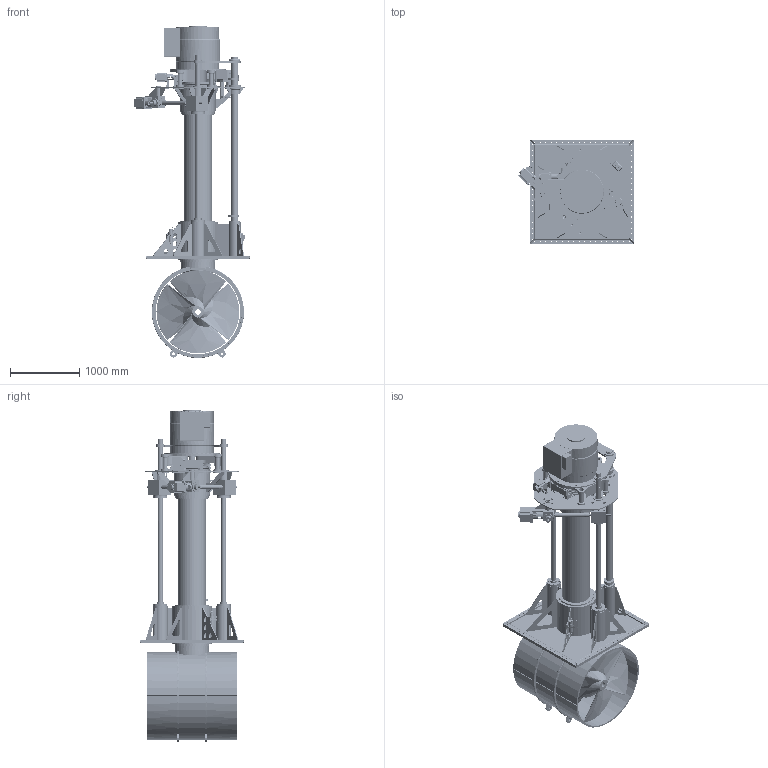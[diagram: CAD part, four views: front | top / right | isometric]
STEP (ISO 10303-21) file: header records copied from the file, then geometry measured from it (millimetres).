
FILE_DESCRIPTION(/* description */ (''),/* implementation_level */ '2;1');
FILE_NAME(/* name */ 'Q:\THRUSTERS\THRUSTER SALES & SUPPORT DOCS\THRUSTER Sales\E-V-R\E-1200-V-R\E-1200-VR-RETRACTED.stp',/* time_stamp */ '2021-02-03T10:03:15+00:00',/* author */ ('Barney.Webborn'),/* organization */ (''),/* preprocessor_version */ 'ST-DEVELOPER v17.2',/* originating_system */ 'Autodesk Inventor 2019',/* authorisation */ '');
FILE_SCHEMA (('AUTOMOTIVE_DESIGN { 1 0 10303 214 3 1 1 }'));
Products named in the file (1): E-1200-VR_Shrinkwrap_1
Bounding box: 1670.44 x 1500 x 4786.69 mm (x, y, z)
Volume: 841208552.8 mm3; surface area: 48915680.1 mm2
Topology: 11 solids, 11 shells, 5884 faces, 15832 edges, 10095 vertices
Faces by surface type: plane 2480, cylinder 2049, cone 640, torus 345, sphere 199, bspline 171
Full cylindrical faces by diameter (mm): 1.5 x1, 3 x6, 4.4 x4, 4.95 x8, 5.5 x12, 6.9 x1, 7 x26, 7.2 x2, 7.275 x1, 8 x5, 8.5 x16, 9 x5, 9.2 x1, 9.525 x1, 10 x1, 13 x8, 13.157 x1, 14 x5, 15.3 x2, 17 x86, 17.5 x3, 18 x1, 18.376 x2, 18.5 x2, 19.05 x1, 20 x1, 20.5 x8, 21 x3, 23.75 x2, 24 x9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
Entity records: 207002 total; most frequent: CARTESIAN_POINT 52377, DIRECTION 31383, ORIENTED_EDGE 31236, EDGE_CURVE 15618, AXIS2_PLACEMENT_3D 11953, VERTEX_POINT 10095, LINE 7477, VECTOR 7477
